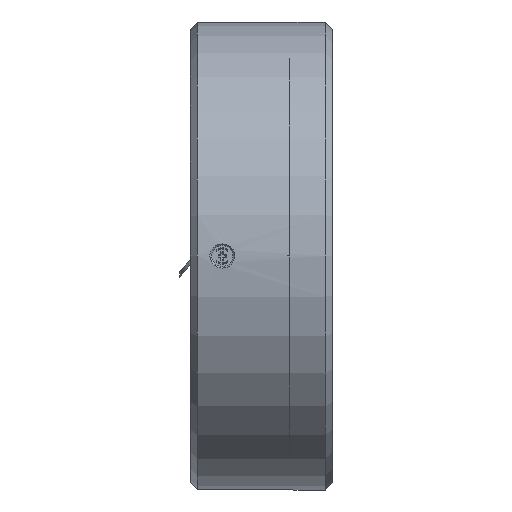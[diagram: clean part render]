
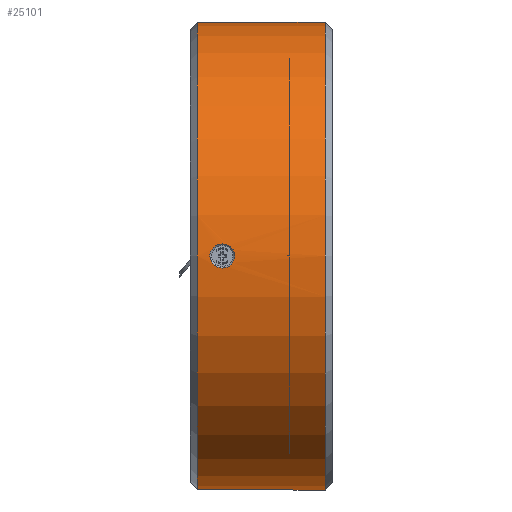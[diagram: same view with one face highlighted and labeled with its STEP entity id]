
A CAD part, left-side view. The second image highlights one B-rep face of the part: STEP entity #25101.
In plain terms, the highlighted cylindrical face has radius 33 mm (diameter 66 mm), a partial arc.
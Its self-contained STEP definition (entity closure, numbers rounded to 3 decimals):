
#10349 = ORIENTED_EDGE ( 'NONE', *, *, #20331, .F. ) ;
#10567 = ORIENTED_EDGE ( 'NONE', *, *, #25179, .F. ) ;
#18145 = CARTESIAN_POINT ( 'NONE',  ( 0., 19., 33. ) ) ;
#18496 = CARTESIAN_POINT ( 'NONE',  ( 0., 19., -33. ) ) ;
#18803 = CARTESIAN_POINT ( 'NONE',  ( 0., 1., -33. ) ) ;
#18907 = CARTESIAN_POINT ( 'NONE',  ( 0., 1., 33. ) ) ;
#19178 = DIRECTION ( 'NONE',  ( 0., -1., 0. ) ) ;
#19180 = VECTOR ( 'NONE', #19178, 1000. ) ;
#19182 = CARTESIAN_POINT ( 'NONE',  ( 0., 0., -33. ) ) ;
#19195 = LINE ( 'NONE', #19182, #19180 ) ;
#19405 = LINE ( 'NONE', #19459, #19458 ) ;
#19456 = DIRECTION ( 'NONE',  ( 0., -1., 0. ) ) ;
#19458 = VECTOR ( 'NONE', #19456, 1000. ) ;
#19459 = CARTESIAN_POINT ( 'NONE',  ( 0., 0., 33. ) ) ;
#20000 = VERTEX_POINT ( 'NONE', #18145 ) ;
#20101 = VERTEX_POINT ( 'NONE', #18496 ) ;
#20175 = VERTEX_POINT ( 'NONE', #18803 ) ;
#20256 = VERTEX_POINT ( 'NONE', #18907 ) ;
#20303 = EDGE_CURVE ( 'NONE', #20101, #20175, #19195, .T. ) ;
#20331 = EDGE_CURVE ( 'NONE', #20000, #20256, #19405, .T. ) ;
#22356 = EDGE_LOOP ( 'NONE', ( #10349, #10567, #25078, #25083 ) ) ;
#22656 = VERTEX_POINT ( 'NONE', #27670 ) ;
#22703 = EDGE_CURVE ( 'NONE', #22656, #22725, #27773, .T. ) ;
#22725 = VERTEX_POINT ( 'NONE', #27836 ) ;
#22794 = EDGE_CURVE ( 'NONE', #22725, #22656, #28405, .T. ) ;
#25078 = ORIENTED_EDGE ( 'NONE', *, *, #20303, .T. ) ;
#25083 = ORIENTED_EDGE ( 'NONE', *, *, #25180, .T. ) ;
#25085 = ORIENTED_EDGE ( 'NONE', *, *, #22794, .F. ) ;
#25088 = ORIENTED_EDGE ( 'NONE', *, *, #22703, .F. ) ;
#25101 = ADVANCED_FACE ( 'NONE', ( #35892, #35883 ), #35869, .T. ) ;
#25179 = EDGE_CURVE ( 'NONE', #20101, #20000, #36052, .T. ) ;
#25180 = EDGE_CURVE ( 'NONE', #20175, #20256, #36086, .T. ) ;
#25184 = EDGE_LOOP ( 'NONE', ( #25085, #25088 ) ) ;
#27670 = CARTESIAN_POINT ( 'NONE',  ( -32.956, 15.5, -1.706 ) ) ;
#27773 = B_SPLINE_CURVE_WITH_KNOTS ( 'NONE', 3,
 ( #27887, #27886, #27884, #27881, #27880, #27878, #27876, #27875, #27873, #27871, #27870, #27868, #27866, #27865, #27863, #27862, #27861, #27859, #27858, #27856, #27854, #27852, #27850, #27848 ),
 .UNSPECIFIED., .F., .F.,
 ( 4, 2, 2, 2, 2, 2, 2, 2, 2, 2, 2, 4 ),
 ( 0.009, 0.01, 0.011, 0.011, 0.012, 0.012, 0.013, 0.013, 0.014, 0.014, 0.015, 0.015 ),
 .UNSPECIFIED. ) ;
#27836 = CARTESIAN_POINT ( 'NONE',  ( -32.956, 15.5, 1.706 ) ) ;
#27848 = CARTESIAN_POINT ( 'NONE',  ( -32.956, 15.5, 1.706 ) ) ;
#27850 = CARTESIAN_POINT ( 'NONE',  ( -32.956, 15.387, 1.706 ) ) ;
#27852 = CARTESIAN_POINT ( 'NONE',  ( -32.956, 15.273, 1.695 ) ) ;
#27854 = CARTESIAN_POINT ( 'NONE',  ( -32.959, 15.051, 1.653 ) ) ;
#27856 = CARTESIAN_POINT ( 'NONE',  ( -32.96, 14.943, 1.621 ) ) ;
#27858 = CARTESIAN_POINT ( 'NONE',  ( -32.966, 14.627, 1.495 ) ) ;
#27859 = CARTESIAN_POINT ( 'NONE',  ( -32.972, 14.434, 1.371 ) ) ;
#27861 = CARTESIAN_POINT ( 'NONE',  ( -32.981, 14.189, 1.135 ) ) ;
#27862 = CARTESIAN_POINT ( 'NONE',  ( -32.983, 14.116, 1.049 ) ) ;
#27863 = CARTESIAN_POINT ( 'NONE',  ( -32.989, 13.987, 0.864 ) ) ;
#27865 = CARTESIAN_POINT ( 'NONE',  ( -32.991, 13.931, 0.764 ) ) ;
#27866 = CARTESIAN_POINT ( 'NONE',  ( -32.998, 13.797, 0.453 ) ) ;
#27868 = CARTESIAN_POINT ( 'NONE',  ( -33., 13.75, 0.226 ) ) ;
#27870 = CARTESIAN_POINT ( 'NONE',  ( -33., 13.75, -0.224 ) ) ;
#27871 = CARTESIAN_POINT ( 'NONE',  ( -32.998, 13.797, -0.452 ) ) ;
#27873 = CARTESIAN_POINT ( 'NONE',  ( -32.991, 13.93, -0.762 ) ) ;
#27875 = CARTESIAN_POINT ( 'NONE',  ( -32.989, 13.986, -0.863 ) ) ;
#27876 = CARTESIAN_POINT ( 'NONE',  ( -32.983, 14.115, -1.048 ) ) ;
#27878 = CARTESIAN_POINT ( 'NONE',  ( -32.981, 14.188, -1.134 ) ) ;
#27880 = CARTESIAN_POINT ( 'NONE',  ( -32.972, 14.434, -1.371 ) ) ;
#27881 = CARTESIAN_POINT ( 'NONE',  ( -32.966, 14.629, -1.496 ) ) ;
#27884 = CARTESIAN_POINT ( 'NONE',  ( -32.958, 15.048, -1.663 ) ) ;
#27886 = CARTESIAN_POINT ( 'NONE',  ( -32.956, 15.275, -1.706 ) ) ;
#27887 = CARTESIAN_POINT ( 'NONE',  ( -32.956, 15.5, -1.706 ) ) ;
#28345 = CARTESIAN_POINT ( 'NONE',  ( -32.956, 15.5, -1.706 ) ) ;
#28347 = CARTESIAN_POINT ( 'NONE',  ( -32.956, 15.725, -1.706 ) ) ;
#28349 = CARTESIAN_POINT ( 'NONE',  ( -32.958, 15.953, -1.662 ) ) ;
#28350 = CARTESIAN_POINT ( 'NONE',  ( -32.964, 16.267, -1.537 ) ) ;
#28352 = CARTESIAN_POINT ( 'NONE',  ( -32.967, 16.369, -1.485 ) ) ;
#28353 = CARTESIAN_POINT ( 'NONE',  ( -32.972, 16.559, -1.362 ) ) ;
#28355 = CARTESIAN_POINT ( 'NONE',  ( -32.975, 16.648, -1.292 ) ) ;
#28357 = CARTESIAN_POINT ( 'NONE',  ( -32.981, 16.811, -1.136 ) ) ;
#28359 = CARTESIAN_POINT ( 'NONE',  ( -32.983, 16.885, -1.048 ) ) ;
#28360 = CARTESIAN_POINT ( 'NONE',  ( -32.989, 17.014, -0.863 ) ) ;
#28362 = CARTESIAN_POINT ( 'NONE',  ( -32.991, 17.069, -0.764 ) ) ;
#28363 = CARTESIAN_POINT ( 'NONE',  ( -32.996, 17.159, -0.555 ) ) ;
#28365 = CARTESIAN_POINT ( 'NONE',  ( -32.997, 17.193, -0.447 ) ) ;
#28366 = CARTESIAN_POINT ( 'NONE',  ( -32.999, 17.238, -0.226 ) ) ;
#28368 = CARTESIAN_POINT ( 'NONE',  ( -33., 17.25, -0.112 ) ) ;
#28370 = CARTESIAN_POINT ( 'NONE',  ( -33., 17.25, 0.115 ) ) ;
#28372 = CARTESIAN_POINT ( 'NONE',  ( -32.999, 17.238, 0.227 ) ) ;
#28373 = CARTESIAN_POINT ( 'NONE',  ( -32.997, 17.192, 0.448 ) ) ;
#28375 = CARTESIAN_POINT ( 'NONE',  ( -32.995, 17.158, 0.558 ) ) ;
#28377 = CARTESIAN_POINT ( 'NONE',  ( -32.989, 17.024, 0.868 ) ) ;
#28379 = CARTESIAN_POINT ( 'NONE',  ( -32.983, 16.891, 1.059 ) ) ;
#28381 = CARTESIAN_POINT ( 'NONE',  ( -32.972, 16.567, 1.37 ) ) ;
#28382 = CARTESIAN_POINT ( 'NONE',  ( -32.966, 16.372, 1.496 ) ) ;
#28384 = CARTESIAN_POINT ( 'NONE',  ( -32.96, 16.058, 1.621 ) ) ;
#28386 = CARTESIAN_POINT ( 'NONE',  ( -32.959, 15.947, 1.653 ) ) ;
#28387 = CARTESIAN_POINT ( 'NONE',  ( -32.956, 15.725, 1.695 ) ) ;
#28389 = CARTESIAN_POINT ( 'NONE',  ( -32.956, 15.613, 1.706 ) ) ;
#28390 = CARTESIAN_POINT ( 'NONE',  ( -32.956, 15.5, 1.706 ) ) ;
#28405 = B_SPLINE_CURVE_WITH_KNOTS ( 'NONE', 3,
 ( #28390, #28389, #28387, #28386, #28384, #28382, #28381, #28379, #28377, #28375, #28373, #28372, #28370, #28368, #28366, #28365, #28363, #28362, #28360, #28359, #28357, #28355, #28353, #28352, #28350, #28349, #28347, #28345 ),
 .UNSPECIFIED., .F., .F.,
 ( 4, 2, 2, 2, 2, 2, 2, 2, 2, 2, 2, 2, 2, 4 ),
 ( 0.004, 0.004, 0.005, 0.005, 0.006, 0.006, 0.007, 0.007, 0.007, 0.008, 0.008, 0.008, 0.009, 0.009 ),
 .UNSPECIFIED. ) ;
#35869 = CYLINDRICAL_SURFACE ( 'NONE', #35879, 33. ) ;
#35876 = CARTESIAN_POINT ( 'NONE',  ( 0., 0., 0. ) ) ;
#35879 = AXIS2_PLACEMENT_3D ( 'NONE', #35876, #35902, #35901 ) ;
#35883 = FACE_BOUND ( 'NONE', #25184, .T. ) ;
#35892 = FACE_OUTER_BOUND ( 'NONE', #22356, .T. ) ;
#35901 = DIRECTION ( 'NONE',  ( 0., 0., -1. ) ) ;
#35902 = DIRECTION ( 'NONE',  ( 0., -1., 0. ) ) ;
#36052 = CIRCLE ( 'NONE', #36059, 33. ) ;
#36059 = AXIS2_PLACEMENT_3D ( 'NONE', #36177, #36175, #36174 ) ;
#36086 = CIRCLE ( 'NONE', #36179, 33. ) ;
#36160 = DIRECTION ( 'NONE',  ( 0., 0., -1. ) ) ;
#36161 = DIRECTION ( 'NONE',  ( 0., 1., 0. ) ) ;
#36162 = CARTESIAN_POINT ( 'NONE',  ( 0., 1., 0. ) ) ;
#36174 = DIRECTION ( 'NONE',  ( -1., 0., 0. ) ) ;
#36175 = DIRECTION ( 'NONE',  ( 0., 1., 0. ) ) ;
#36177 = CARTESIAN_POINT ( 'NONE',  ( 0., 19., 0. ) ) ;
#36179 = AXIS2_PLACEMENT_3D ( 'NONE', #36162, #36161, #36160 ) ;
